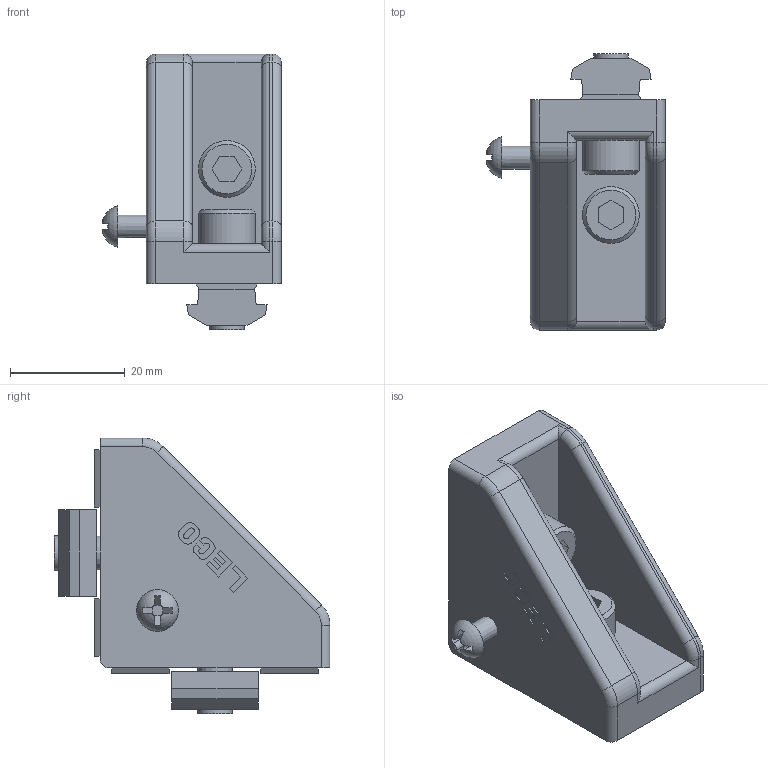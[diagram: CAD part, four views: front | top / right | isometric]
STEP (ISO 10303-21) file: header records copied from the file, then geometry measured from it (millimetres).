
FILE_DESCRIPTION(('STEP AP214'),'1');
FILE_NAME('BL40-B.stp','2021-12-27T04:21:24',(' '),(' '),'Spatial InterOp 3D',' ',' ');
FILE_SCHEMA(('AUTOMOTIVE_DESIGN { 1 0 10303 214 1 1 1 1 }'));
Length unit declared in the file: millimetre
Products named in the file (7): BL40-B; NF40-M6; BL40-H; ねじ: 穴付き - M6.0 x 15.0; ねじ: 丸頭 - M4.0 x 10.0
Assembly tree (6 placements, depth 2):
  BL40-B
    NF40-M6
    (unnamed)
    BL40-H
    ねじ: 穴付き - M6.0 x 15.0
    ねじ: 穴付き - M6.0 x 15.0
    ねじ: 丸頭 - M4.0 x 10.0
Bounding box: 31.14 x 48 x 48 mm (x, y, z)
Volume: 22440.6 mm3; surface area: 10711.4 mm2
Topology: 6 solids, 8 shells, 266 faces, 664 edges, 433 vertices
Faces by surface type: plane 197, cylinder 55, torus 8, cone 5, sphere 1
Full cylindrical faces by diameter (mm): 4 x2, 6 x2, 6.5 x2, 9.87 x2
Entity records: 10083 total; most frequent: CARTESIAN_POINT 1388, DIRECTION 1321, ORIENTED_EDGE 1296, EDGE_CURVE 648, LINE 513, VECTOR 513, VERTEX_POINT 431, AXIS2_PLACEMENT_3D 404
